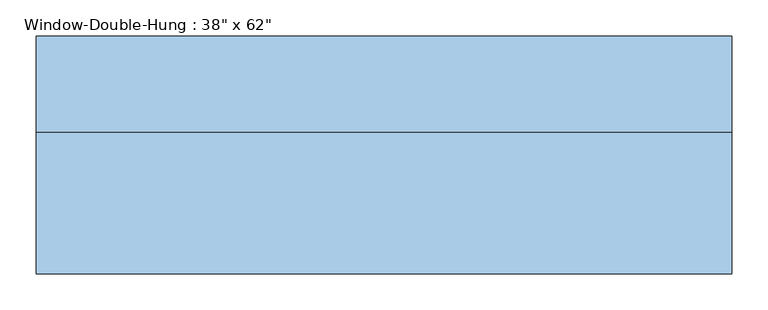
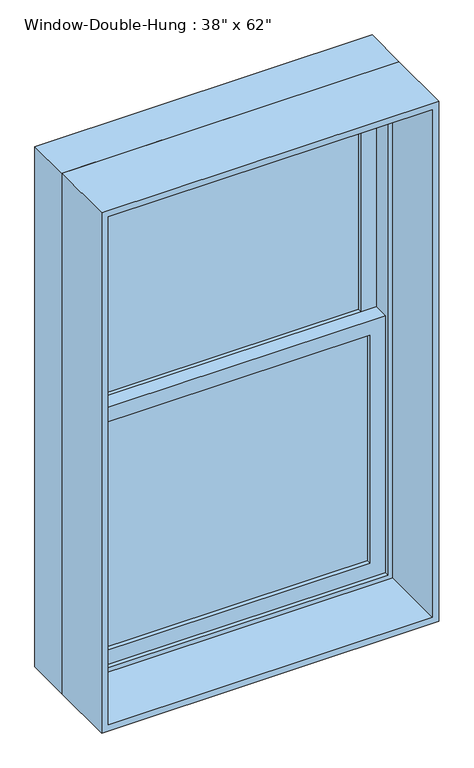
"""IFC4 building model written with IfcOpenShell, lengths in millimetres: window geometry."""

from ifc_helpers import new_model, si_unit, frame, origin, place, context, project, spatial, polyline, outline, extrude, source, transform, mapped, element, save


def window_35fc641e(model_context):
    return source(origin(), model_context, "Body", "SweptSolid", [
        extrude(outline(polyline([(406.4, 85.725), (406.4, 79.375), (-406.4, 79.375), (-406.4, 85.725), (406.4, 85.725)])), frame((0.0, 0.0, 990.6), z_axis=(0.0, 0.0, 1.0), x_axis=(1.0, 0.0, 0.0)), (0.0, 0.0, 1.0), 688.975),
        extrude(outline(polyline([(-406.4, 73.025), (406.4, 73.025), (406.4, 66.675), (-406.4, 66.675), (-406.4, 73.025)])), frame((0.0, 0.0, 990.6), z_axis=(0.0, 0.0, 1.0), x_axis=(1.0, 0.0, 0.0)), (0.0, 0.0, 1.0), 688.975),
        extrude(outline(polyline([(406.4, 130.175), (406.4, 123.825), (-406.4, 123.825), (-406.4, 130.175), (406.4, 130.175)])), frame((0.0, 0.0, 1724.025), z_axis=(0.0, 0.0, 1.0), x_axis=(1.0, 0.0, 0.0)), (0.0, 0.0, 1.0), 688.975),
        extrude(outline(polyline([(-406.4, 117.475), (406.4, 117.475), (406.4, 111.125), (-406.4, 111.125), (-406.4, 117.475)])), frame((0.0, 0.0, 1724.025), z_axis=(0.0, 0.0, 1.0), x_axis=(1.0, 0.0, 0.0)), (0.0, 0.0, 1.0), 688.975),
        extrude(outline(polyline([(1724.025, -450.85), (946.15, -450.85), (946.15, 450.85), (1724.025, 450.85), (1724.025, -450.85)]), holes=[polyline([(1679.575, 406.4), (990.6, 406.4), (990.6, -406.4), (1679.575, -406.4), (1679.575, 406.4)])]), frame((0.0, 53.975, 0.0), z_axis=(0.0, 1.0, 0.0), x_axis=(0.0, 0.0, 1.0)), (0.0, 0.0, 1.0), 44.45),
        extrude(outline(polyline([(2457.45, -450.85), (1679.575, -450.85), (1679.575, 450.85), (2457.45, 450.85), (2457.45, -450.85)]), holes=[polyline([(2413.0, 406.4), (1724.025, 406.4), (1724.025, -406.4), (2413.0, -406.4), (2413.0, 406.4)])]), frame((0.0, 98.425, 0.0), z_axis=(0.0, 1.0, 0.0), x_axis=(0.0, 0.0, 1.0)), (0.0, 0.0, 1.0), 44.45),
        extrude(outline(polyline([(2489.2, -482.6), (914.4, -482.6), (914.4, 482.6), (2489.2, 482.6), (2489.2, -482.6)]), holes=[polyline([(2457.45, 450.85), (946.15, 450.85), (946.15, -450.85), (2457.45, -450.85), (2457.45, 450.85)])]), frame((0.0, 41.275, 0.0), z_axis=(0.0, 1.0, 0.0), x_axis=(0.0, 0.0, 1.0)), (0.0, 0.0, 1.0), 133.35),
        extrude(outline(polyline([(2489.2, 482.6), (2489.2, -482.6), (914.4, -482.6), (914.4, 482.6), (2489.2, 482.6)]), holes=[polyline([(2470.15, 463.55), (933.45, 463.55), (933.45, -463.55), (2470.15, -463.55), (2470.15, 463.55)])]), frame((0.0, -155.575, 0.0), z_axis=(0.0, 1.0, 0.0), x_axis=(0.0, 0.0, 1.0)), (0.0, 0.0, 1.0), 196.85),
    ])


if __name__ == "__main__":
    model = new_model("IFC4")
    model_context = context("Model", 3, world=origin())
    ifc_project = project(units=[si_unit("LENGTHUNIT", "METRE", prefix="MILLI")], contexts=[model_context])
    site = spatial("IfcSite", under=ifc_project)
    building = spatial("IfcBuilding", under=site)
    placement = place(None, origin())
    window_shape = window_35fc641e(model_context)
    element("IfcWindow", 1, ObjectType="Window-Double-Hung : 38\" x 62\"", at=placement, inside=building, context=model_context, shape_type="MappedRepresentation", body=[
        mapped(window_shape, transform((0.0, 0.0, 0.0), x_axis=(1.0, 0.0, 0.0), y_axis=(0.0, 1.0, 0.0), z_axis=(0.0, 0.0, 1.0))),
    ])
    save(model, "model.ifc")
